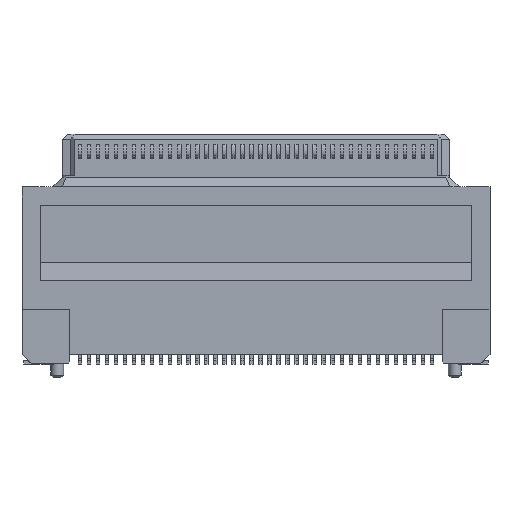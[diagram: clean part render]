
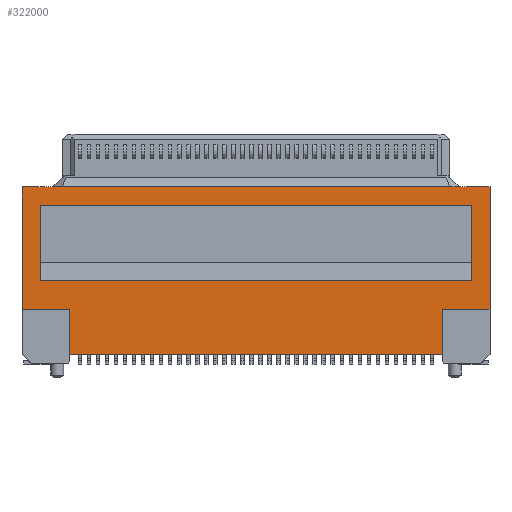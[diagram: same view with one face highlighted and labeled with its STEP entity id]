
A CAD part, front view. The second image highlights one B-rep face of the part: STEP entity #322000.
In plain terms, the highlighted planar face has unit normal (0, -1, 0) as drawn and (0, 0, 1) by its records, which use the part's own axes.
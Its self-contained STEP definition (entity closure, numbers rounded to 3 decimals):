
#1020=CARTESIAN_POINT('',(26.988,-4.86,5.3));
#1030=VERTEX_POINT('',#1020);
#1060=CARTESIAN_POINT('',(26.988,0.,5.3));
#1070=DIRECTION('',(0.,1.,0.));
#1080=VECTOR('',#1070,1.);
#1090=LINE('',#1060,#1080);
#1100=CARTESIAN_POINT('',(26.988,-2.36,5.3));
#1110=VERTEX_POINT('',#1100);
#1120=EDGE_CURVE('',#1030,#1110,#1090,.T.);
#92220=CARTESIAN_POINT('',(6.388,-4.86,5.3));
#92230=VERTEX_POINT('',#92220);
#92260=CARTESIAN_POINT('',(15.5,-4.86,5.3));
#92270=DIRECTION('',(-1.,0.,0.));
#92280=VECTOR('',#92270,1.);
#92290=LINE('',#92260,#92280);
#92300=EDGE_CURVE('',#1030,#92230,#92290,.T.);
#92510=CARTESIAN_POINT('',(29.638,4.41,5.3));
#92520=VERTEX_POINT('',#92510);
#92620=CARTESIAN_POINT('',(29.638,-2.36,5.3));
#92630=VERTEX_POINT('',#92620);
#92660=CARTESIAN_POINT('',(29.638,2.,5.3));
#92670=DIRECTION('',(0.,-1.,0.));
#92680=VECTOR('',#92670,1.);
#92690=LINE('',#92660,#92680);
#92700=EDGE_CURVE('',#92520,#92630,#92690,.T.);
#126040=CARTESIAN_POINT('',(48.876,4.41,5.3));
#126050=DIRECTION('',(1.,0.,0.));
#126060=VECTOR('',#126050,1.);
#126070=LINE('',#126040,#126060);
#126080=CARTESIAN_POINT('',(3.738,4.41,5.3));
#126090=VERTEX_POINT('',#126080);
#126100=EDGE_CURVE('',#126090,#92520,#126070,.T.);
#135020=CARTESIAN_POINT('',(28.638,3.41,5.3));
#135030=VERTEX_POINT('',#135020);
#135200=CARTESIAN_POINT('',(4.738,3.41,5.3));
#135210=VERTEX_POINT('',#135200);
#135240=CARTESIAN_POINT('',(10.,3.41,5.3));
#135250=DIRECTION('',(1.,0.,0.));
#135260=VECTOR('',#135250,1.);
#135270=LINE('',#135240,#135260);
#135280=EDGE_CURVE('',#135210,#135030,#135270,.T.);
#137580=CARTESIAN_POINT('',(28.638,1.,5.3));
#137590=DIRECTION('',(0.,-1.,0.));
#137600=VECTOR('',#137590,1.);
#137610=LINE('',#137580,#137600);
#137620=CARTESIAN_POINT('',(28.638,-0.79,5.3));
#137630=VERTEX_POINT('',#137620);
#137640=EDGE_CURVE('',#135030,#137630,#137610,.T.);
#198340=CARTESIAN_POINT('',(3.738,3.,5.3));
#198350=DIRECTION('',(0.,1.,0.));
#198360=VECTOR('',#198350,1.);
#198370=LINE('',#198340,#198360);
#198380=CARTESIAN_POINT('',(3.738,-2.36,5.3));
#198390=VERTEX_POINT('',#198380);
#198400=EDGE_CURVE('',#198390,#126090,#198370,.T.);
#273290=CARTESIAN_POINT('',(6.388,0.,5.3));
#273300=DIRECTION('',(0.,-1.,0.));
#273310=VECTOR('',#273300,1.);
#273320=LINE('',#273290,#273310);
#273330=CARTESIAN_POINT('',(6.388,-2.36,5.3));
#273340=VERTEX_POINT('',#273330);
#273350=EDGE_CURVE('',#273340,#92230,#273320,.T.);
#274270=CARTESIAN_POINT('',(15.,-2.36,5.3));
#274280=DIRECTION('',(1.,0.,0.));
#274290=VECTOR('',#274280,1.);
#274300=LINE('',#274270,#274290);
#274310=EDGE_CURVE('',#198390,#273340,#274300,.T.);
#321620=CARTESIAN_POINT('',(38.638,-1.79,5.3));
#321630=DIRECTION('',(0.,0.,1.));
#321640=DIRECTION('',(1.,0.,0.));
#321650=AXIS2_PLACEMENT_3D('',#321620,#321630,#321640);
#321660=PLANE('',#321650);
#321670=CARTESIAN_POINT('',(4.738,0.,5.3));
#321680=DIRECTION('',(0.,-1.,0.));
#321690=VECTOR('',#321680,1.);
#321700=LINE('',#321670,#321690);
#321710=CARTESIAN_POINT('',(4.738,-0.79,5.3));
#321720=VERTEX_POINT('',#321710);
#321730=EDGE_CURVE('',#135210,#321720,#321700,.T.);
#321740=ORIENTED_EDGE('',*,*,#321730,.F.);
#321750=CARTESIAN_POINT('',(15.,-0.79,5.3));
#321760=DIRECTION('',(-1.,0.,0.));
#321770=VECTOR('',#321760,1.);
#321780=LINE('',#321750,#321770);
#321790=EDGE_CURVE('',#137630,#321720,#321780,.T.);
#321800=ORIENTED_EDGE('',*,*,#321790,.T.);
#321810=ORIENTED_EDGE('',*,*,#137640,.T.);
#321820=ORIENTED_EDGE('',*,*,#135280,.T.);
#321830=EDGE_LOOP('',(#321820,#321810,#321800,#321740));
#321840=FACE_BOUND('',#321830,.T.);
#321850=ORIENTED_EDGE('',*,*,#92700,.F.);
#321860=CARTESIAN_POINT('',(0.,-2.36,5.3));
#321870=DIRECTION('',(1.,0.,0.));
#321880=VECTOR('',#321870,1.);
#321890=LINE('',#321860,#321880);
#321900=EDGE_CURVE('',#1110,#92630,#321890,.T.);
#321910=ORIENTED_EDGE('',*,*,#321900,.T.);
#321920=ORIENTED_EDGE('',*,*,#1120,.T.);
#321930=ORIENTED_EDGE('',*,*,#92300,.F.);
#321940=ORIENTED_EDGE('',*,*,#273350,.T.);
#321950=ORIENTED_EDGE('',*,*,#274310,.T.);
#321960=ORIENTED_EDGE('',*,*,#198400,.F.);
#321970=ORIENTED_EDGE('',*,*,#126100,.F.);
#321980=EDGE_LOOP('',(#321970,#321960,#321950,#321940,#321930,#321920,
#321910,#321850));
#321990=FACE_OUTER_BOUND('',#321980,.T.);
#322000=ADVANCED_FACE('',(#321840,#321990),#321660,.T.);
